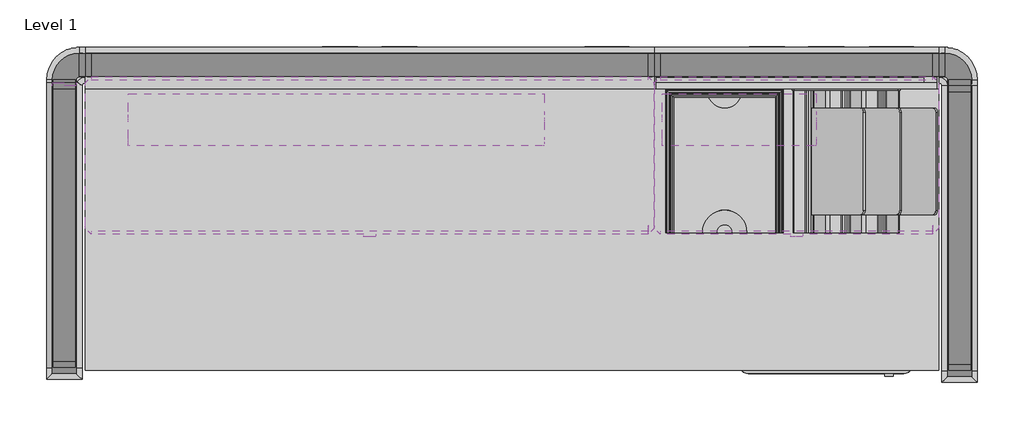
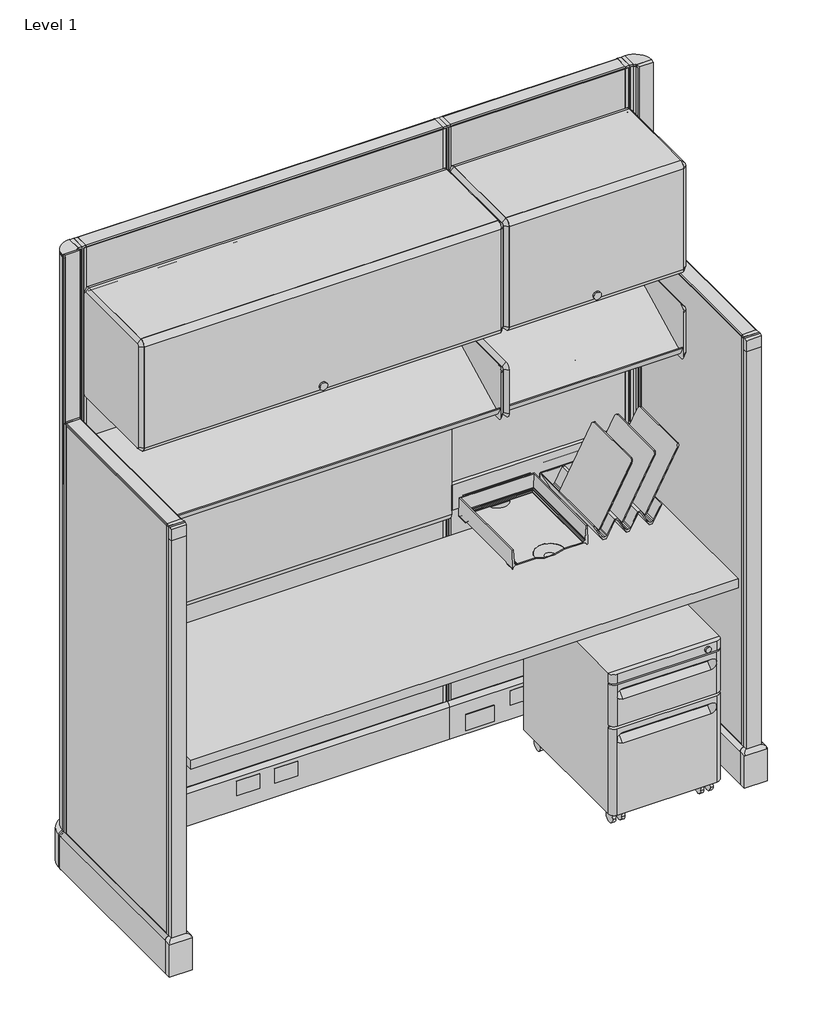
# One storey, incomplete: 20 furniture elements, 2 light fixtures.
"""IFC4 building model written with IfcOpenShell, lengths in millimetres."""

from ifc_helpers import new_model, si_unit, origin, place, context, project, spatial, transform, mapped, element, save
from components import furniture_84c54a78, furniture_0882e81d, furniture_31a6571c, furniture_9b7a8d55, furniture_f3dbc57d, furniture_60762688, furniture_4dcc41e3, furniture_cb78dd66, furniture_6a59721d, furniture_a2665887, furniture_75fc3fe0, furniture_5b942465, furniture_b927cfb1, furniture_2df44bcc, furniture_14ab3327, furniture_0fa552dd, furniture_d6d106ba, light_fixture_6c250f8a, light_fixture_d29e1486

model = new_model("IFC4")

# Units and contexts
model_context = context("Model", 3, world=origin())
ifc_project = project(units=[si_unit("LENGTHUNIT", "METRE", prefix="MILLI")], contexts=[model_context])

# Site, building, storey
site = spatial("IfcSite", under=ifc_project)
building = spatial("IfcBuilding", under=site)
storey = spatial("IfcBuildingStorey", under=building, Name="Level 1", Elevation=0.0)

# Furniture
placement = place(None, origin())
furniture_shape = furniture_84c54a78(model_context)
element("IfcFurniture", 1, ObjectType="HermanMiller_QuadrantFiling_G5111_MobilePedestal : 21-1/2\"H x 20\"D x 15\"W BF", at=placement, inside=storey, context=model_context, shape_type="MappedRepresentation", body=[
    mapped(furniture_shape, transform((1586.981948, -358.8618128, 0.0), x_axis=(1.0, 0.0, 0.0), y_axis=(0.0, 1.0, 0.0), z_axis=(0.0, 0.0, 1.0))),
])
furniture_2_shape = furniture_0882e81d(model_context)
element("IfcFurniture", 2, ObjectType="HermanMiller_ActionOffice_A1110_Hard-SurfacedPanelStandardBase : 62\"H x 24\"W-N", at=placement, inside=storey, context=model_context, shape_type="MappedRepresentation", body=[
    mapped(furniture_2_shape, transform((-44.4080158, -304.8004943, 0.0), x_axis=(-3.6732051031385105e-06, 0.9999999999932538, 0.0), y_axis=(-0.9999999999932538, -3.6732051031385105e-06, 0.0), z_axis=(0.0, 0.0, 1.0))),
])
element("IfcFurniture", 3, ObjectType="HermanMiller_ActionOffice_A1110_Hard-SurfacedPanelStandardBase : 62\"H x 24\"W-N", at=placement, inside=storey, context=model_context, shape_type="MappedRepresentation", body=[
    mapped(furniture_2_shape, transform((1873.2934724, -311.1481896, 0.0), x_axis=(1.1019615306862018e-05, -0.9999999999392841, 0.0), y_axis=(0.9999999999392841, 1.1019615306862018e-05, 0.0), z_axis=(0.0, 0.0, 1.0))),
])
furniture_3_shape = furniture_31a6571c(model_context)
element("IfcFurniture", 4, ObjectType="HermanMiller_ActionOffice_A1110_Hard-SurfacedPanelStandardBase : 85\"H x 24\"W-G", at=placement, inside=storey, context=model_context, shape_type="MappedRepresentation", body=[
    mapped(furniture_3_shape, transform((1524.040748, 38.1020903, 0.0), x_axis=(1.0, 0.0, 0.0), y_axis=(0.0, 1.0, 0.0), z_axis=(0.0, 0.0, 1.0))),
])
furniture_4_shape = furniture_9b7a8d55(model_context)
element("IfcFurniture", 5, ObjectType="HermanMiller_ActionOffice_A1110_Hard-SurfacedPanelStandardBase : 85\"H x 48\"W-G", at=placement, inside=storey, context=model_context, shape_type="MappedRepresentation", body=[
    mapped(furniture_4_shape, transform((609.640748, 38.1020903, 0.0), x_axis=(1.0, 0.0, 0.0), y_axis=(0.0, 1.0, 0.0), z_axis=(0.0, 0.0, 1.0))),
])
furniture_5_shape = furniture_f3dbc57d(model_context)
element("IfcFurniture", 6, ObjectType="HermanMiller_ActionOffice_A2310_Sq-EdgeRectangularWorkSurface : 24\"D x 72\"W", at=placement, inside=storey, context=model_context, shape_type="MappedRepresentation", body=[
    mapped(furniture_5_shape, transform((914.440748, -301.6229097, 0.0), x_axis=(1.0, 0.0, 0.0), y_axis=(0.0, 1.0, 0.0), z_axis=(0.0, 0.0, 1.0))),
])
furniture_6_shape = furniture_60762688(model_context)
element("IfcFurniture", 7, ObjectType="HermanMiller_ActionOffice_A3352_B-StyleFlipperDoorUnit : 15 1/2\"H x 13\"D x 24\"W", at=placement, inside=storey, context=model_context, shape_type="MappedRepresentation", body=[
    mapped(furniture_6_shape, transform((1524.040748, -168.2729097, 0.0), x_axis=(1.0, 0.0, 0.0), y_axis=(0.0, 1.0, 0.0), z_axis=(0.0, 0.0, 1.0))),
])
furniture_7_shape = furniture_4dcc41e3(model_context)
element("IfcFurniture", 8, ObjectType="HermanMiller_ActionOffice_A3352_B-StyleFlipperDoorUnit : 15 1/2\"H x 13\"D x 48\"W", at=placement, inside=storey, context=model_context, shape_type="MappedRepresentation", body=[
    mapped(furniture_7_shape, transform((609.640748, -168.2729097, 0.0), x_axis=(1.0, 0.0, 0.0), y_axis=(0.0, 1.0, 0.0), z_axis=(0.0, 0.0, 1.0))),
])
furniture_8_shape = furniture_cb78dd66(model_context)
element("IfcFurniture", 9, ObjectType="HermanMiller_ActionOffice_A3410_B-StyleTackboard : 16\"H x 48\"W", at=placement, inside=storey, context=model_context, shape_type="MappedRepresentation", body=[
    mapped(furniture_8_shape, transform((609.640748, 0.0020903, 0.0), x_axis=(1.0, 0.0, 0.0), y_axis=(0.0, 1.0, 0.0), z_axis=(0.0, 0.0, 1.0))),
])
furniture_9_shape = furniture_6a59721d(model_context)
element("IfcFurniture", 10, ObjectType="HermanMiller_ActionOffice_A3610_ToolBar : 4\"H x 24\"W", at=placement, inside=storey, context=model_context, shape_type="MappedRepresentation", body=[
    mapped(furniture_9_shape, transform((1524.040748, 0.0020906, 0.0), x_axis=(1.0, 0.0, 0.0), y_axis=(0.0, 1.0, 0.0), z_axis=(0.0, 0.0, 1.0))),
])
furniture_10_shape = furniture_a2665887(model_context)
element("IfcFurniture", 11, ObjectType="HermanMiller_ThrivePortfolio_Y7216_PaperTray : 3\"H x 12\"D x 10\"W", at=placement, inside=storey, context=model_context, shape_type="MappedRepresentation", body=[
    mapped(furniture_10_shape, transform((1369.756068, -166.7184297, 0.0), x_axis=(1.0, 0.0, 0.0), y_axis=(0.0, 1.0, 0.0), z_axis=(0.0, 0.0, 1.0))),
])
furniture_11_shape = furniture_75fc3fe0(model_context)
element("IfcFurniture", 12, ObjectType="HermanMiller_ThrivePortfolio_Y7218_DiagonalTray : 8 1/2\"H x 12\"D x 13\"W", at=placement, inside=storey, context=model_context, shape_type="MappedRepresentation", body=[
    mapped(furniture_11_shape, transform((1630.057565, -166.7184297, 0.0), x_axis=(1.0, 0.0, 0.0), y_axis=(0.0, 1.0, 0.0), z_axis=(0.0, 0.0, 1.0))),
])
furniture_12_shape = furniture_5b942465(model_context)
element("IfcFurniture", 13, ObjectType="HermanMiller_ActionOffice_A3220_B-StyleStorageDisplay : Display 13\"D x 24\"W", at=placement, inside=storey, context=model_context, shape_type="MappedRepresentation", body=[
    mapped(furniture_12_shape, transform((1647.9827525, -168.2729097, 0.0), x_axis=(1.0, 0.0, 0.0), y_axis=(0.0, 1.0, 0.0), z_axis=(0.0, 0.0, 1.0))),
])
furniture_13_shape = furniture_b927cfb1(model_context)
element("IfcFurniture", 14, ObjectType="HermanMiller_ActionOffice_A3220_B-StyleStorageDisplay : Display 13\"D x 48\"W", at=placement, inside=storey, context=model_context, shape_type="MappedRepresentation", body=[
    mapped(furniture_13_shape, transform((733.5827525, -168.2729097, 0.0), x_axis=(1.0, 0.0, 0.0), y_axis=(0.0, 1.0, 0.0), z_axis=(0.0, 0.0, 1.0))),
])
furniture_14_shape = furniture_2df44bcc(model_context)
element("IfcFurniture", 15, ObjectType="HermanMiller_ActionOffice_AO259_AO272_FinishedEndChangeOfHeight : 32\"H Panel/Conn", at=placement, inside=storey, context=model_context, shape_type="MappedRepresentation", body=[
    mapped(furniture_14_shape, transform((-123.9793252, -66.8723678, 0.0), x_axis=(1.1019615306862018e-05, -0.9999999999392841, 0.0), y_axis=(0.9999999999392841, 1.1019615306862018e-05, 0.0), z_axis=(0.0, 0.0, 1.0))),
])
furniture_15_shape = furniture_14ab3327(model_context)
element("IfcFurniture", 16, ObjectType="HermanMiller_ActionOffice_AO259_AO272_FinishedEndChangeOfHeight : 32\"H Panel/Conn", at=placement, inside=storey, context=model_context, shape_type="MappedRepresentation", body=[
    mapped(furniture_15_shape, transform((1793.7197839, -73.2200631, 0.0), x_axis=(1.1019615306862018e-05, -0.9999999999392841, 0.0), y_axis=(0.9999999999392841, 1.1019615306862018e-05, 0.0), z_axis=(0.0, 0.0, 1.0))),
])
furniture_16_shape = furniture_0fa552dd(model_context)
element("IfcFurniture", 17, ObjectType="HermanMiller_ActionOffice_A1271_FinishedEndStandardBase : 62\"H", at=placement, inside=storey, context=model_context, shape_type="MappedRepresentation", body=[
    mapped(furniture_16_shape, transform((2404.3077798, 1375.2825409, 0.0), x_axis=(1.1019615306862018e-05, -0.9999999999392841, 0.0), y_axis=(0.9999999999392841, 1.1019615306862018e-05, 0.0), z_axis=(0.0, 0.0, 1.0))),
])
element("IfcFurniture", 18, ObjectType="HermanMiller_ActionOffice_A1271_FinishedEndStandardBase : 62\"H", at=placement, inside=storey, context=model_context, shape_type="MappedRepresentation", body=[
    mapped(furniture_16_shape, transform((4322.0070288, 1368.9348456, 0.0), x_axis=(1.1019615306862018e-05, -0.9999999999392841, 0.0), y_axis=(0.9999999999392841, 1.1019615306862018e-05, 0.0), z_axis=(0.0, 0.0, 1.0))),
])
furniture_17_shape = furniture_d6d106ba(model_context)
element("IfcFurniture", 19, ObjectType="HermanMiller_ActionOffice_A1220_90ConnectorStandardBase : 85\"H 2-Way-Hard", at=placement, inside=storey, context=model_context, shape_type="MappedRepresentation", body=[
    mapped(furniture_17_shape, transform((-29.895194, 31.7519803, 0.0), x_axis=(-3.6732051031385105e-06, 0.9999999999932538, 0.0), y_axis=(-0.9999999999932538, -3.6732051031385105e-06, 0.0), z_axis=(0.0, 0.0, 1.0))),
])
element("IfcFurniture", 20, ObjectType="HermanMiller_ActionOffice_A1220_90ConnectorStandardBase : 85\"H 2-Way-Hard", at=placement, inside=storey, context=model_context, shape_type="MappedRepresentation", body=[
    mapped(furniture_17_shape, transform((1866.940748, 23.5881489, 0.0), x_axis=(1.0, 0.0, 0.0), y_axis=(0.0, 1.0, 0.0), z_axis=(0.0, 0.0, 1.0))),
])

# Light fixtures
light_fixture_shape = light_fixture_6c250f8a(model_context)
element("IfcLightFixture", 21, ObjectType="HermanMiller_SupplementalProducts_G6136_UtilityTaskLight : AO Etho Canvas 24W", at=placement, inside=storey, context=model_context, shape_type="MappedRepresentation", body=[
    mapped(light_fixture_shape, transform((1400.469748, -79.3729097, 0.0), x_axis=(1.0, 0.0, 0.0), y_axis=(0.0, 1.0, 0.0), z_axis=(0.0, 0.0, 1.0))),
])
light_fixture_2_shape = light_fixture_d29e1486(model_context)
element("IfcLightFixture", 22, ObjectType="HermanMiller_SupplementalProducts_G6136_UtilityTaskLight : AO Etho Canvas 42W", at=placement, inside=storey, context=model_context, shape_type="MappedRepresentation", body=[
    mapped(light_fixture_2_shape, transform((537.7589346, -79.3729097, 0.0), x_axis=(1.0, 0.0, 0.0), y_axis=(0.0, 1.0, 0.0), z_axis=(0.0, 0.0, 1.0))),
])

save(model, "model.ifc")
